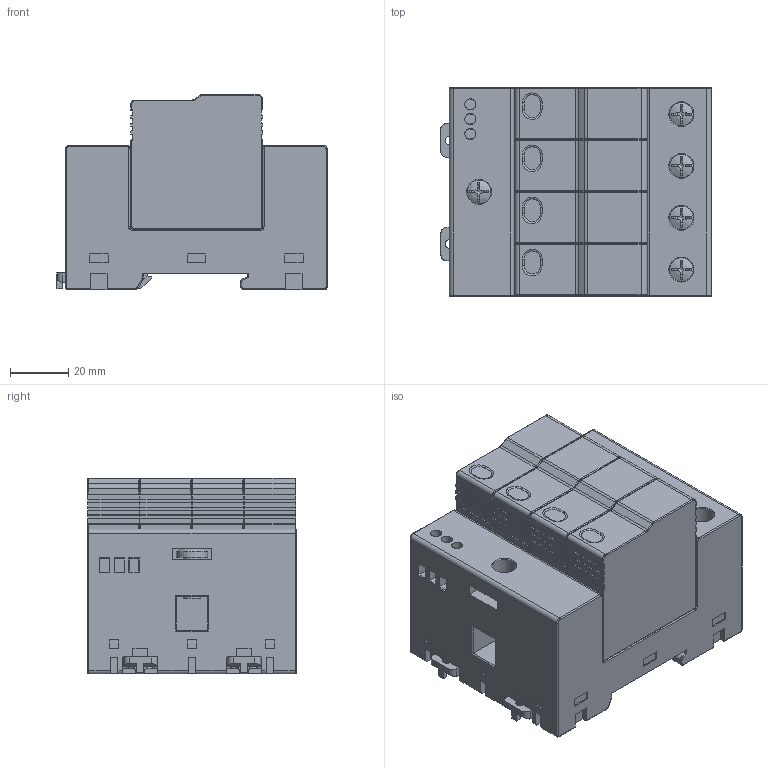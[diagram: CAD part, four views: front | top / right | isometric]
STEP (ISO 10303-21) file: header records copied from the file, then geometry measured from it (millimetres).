
FILE_DESCRIPTION (( 'STEP AP203' ), '1' );
FILE_NAME ('WTH-40_4P.STEP', '2023-05-28T07:33:46', ( 'a' ), ( '' ), 'SwSTEP 2.0', 'SolidWorks 2016', '' );
FILE_SCHEMA (( 'CONFIG_CONTROL_DESIGN' ));
Length unit declared in the file: millimetre
Products named in the file (1): WTH-40_4P
Bounding box: 93 x 71.8 x 67.2 mm (x, y, z)
Volume: 334662.4 mm3; surface area: 71375 mm2
Topology: 1 solids, 33 shells, 1523 faces, 3995 edges, 2547 vertices
Faces by surface type: plane 1000, cylinder 336, bspline 156, cone 31
Full cylindrical faces by diameter (mm): 3.8 x3, 4.48 x5, 5 x5, 6 x10, 8.1 x9, 10.8 x1
Entity records: 50476 total; most frequent: CARTESIAN_POINT 14381, ORIENTED_EDGE 7770, DIRECTION 6879, EDGE_CURVE 3885, LINE 2785, VECTOR 2785, VERTEX_POINT 2518, AXIS2_PLACEMENT_3D 2047
